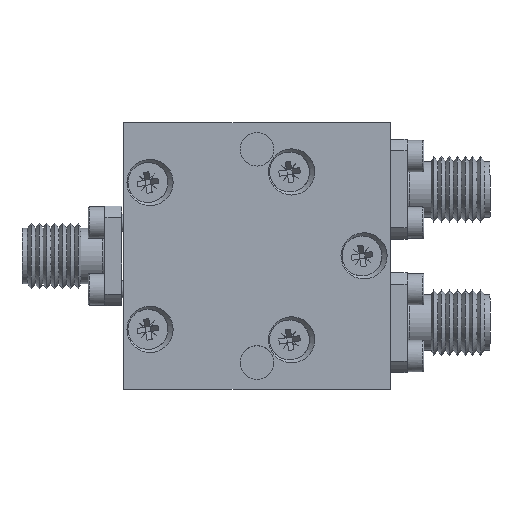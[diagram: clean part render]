
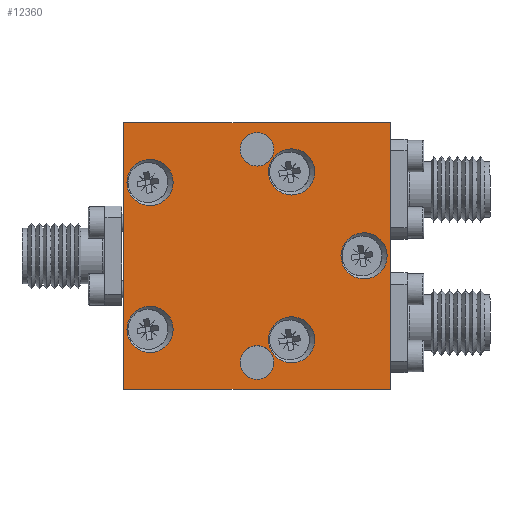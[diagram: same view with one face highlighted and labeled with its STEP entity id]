
A CAD part, top view. The second image highlights one B-rep face of the part: STEP entity #12360.
In plain terms, the highlighted planar face has unit normal (0, 0, 1).
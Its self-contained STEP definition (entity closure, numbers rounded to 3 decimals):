
#353=LINE('',#16928,#987);
#354=LINE('',#16931,#988);
#355=LINE('',#16933,#989);
#356=LINE('',#16935,#990);
#987=VECTOR('',#14247,1000.);
#988=VECTOR('',#14248,1000.);
#989=VECTOR('',#14249,1000.);
#990=VECTOR('',#14250,1000.);
#1596=PLANE('',#13066);
#2290=ORIENTED_EDGE('',*,*,#4305,.T.);
#2291=ORIENTED_EDGE('',*,*,#4306,.T.);
#2292=ORIENTED_EDGE('',*,*,#4307,.T.);
#2293=ORIENTED_EDGE('',*,*,#4308,.T.);
#2294=ORIENTED_EDGE('',*,*,#4294,.T.);
#2295=ORIENTED_EDGE('',*,*,#4285,.T.);
#2296=ORIENTED_EDGE('',*,*,#4276,.T.);
#2297=ORIENTED_EDGE('',*,*,#4267,.T.);
#2298=ORIENTED_EDGE('',*,*,#4258,.T.);
#2299=ORIENTED_EDGE('',*,*,#4304,.F.);
#2300=ORIENTED_EDGE('',*,*,#4303,.F.);
#4258=EDGE_CURVE('',#5309,#5309,#6081,.T.);
#4267=EDGE_CURVE('',#5316,#5316,#6083,.T.);
#4276=EDGE_CURVE('',#5323,#5323,#6085,.T.);
#4285=EDGE_CURVE('',#5330,#5330,#6087,.T.);
#4294=EDGE_CURVE('',#5337,#5337,#6089,.T.);
#4303=EDGE_CURVE('',#5344,#5344,#6091,.T.);
#4304=EDGE_CURVE('',#5345,#5345,#6092,.T.);
#4305=EDGE_CURVE('',#5346,#5347,#353,.T.);
#4306=EDGE_CURVE('',#5347,#5348,#354,.T.);
#4307=EDGE_CURVE('',#5348,#5349,#355,.T.);
#4308=EDGE_CURVE('',#5349,#5346,#356,.T.);
#5309=VERTEX_POINT('',#16693);
#5316=VERTEX_POINT('',#16739);
#5323=VERTEX_POINT('',#16785);
#5330=VERTEX_POINT('',#16831);
#5337=VERTEX_POINT('',#16877);
#5344=VERTEX_POINT('',#16923);
#5345=VERTEX_POINT('',#16926);
#5346=VERTEX_POINT('',#16929);
#5347=VERTEX_POINT('',#16930);
#5348=VERTEX_POINT('',#16932);
#5349=VERTEX_POINT('',#16934);
#6081=CIRCLE('',#13043,2.2);
#6083=CIRCLE('',#13047,2.2);
#6085=CIRCLE('',#13051,2.2);
#6087=CIRCLE('',#13055,2.2);
#6089=CIRCLE('',#13059,2.2);
#6091=CIRCLE('',#13063,1.6);
#6092=CIRCLE('',#13065,1.6);
#6494=EDGE_LOOP('',(#2290,#2291,#2292,#2293));
#6495=EDGE_LOOP('',(#2294));
#6496=EDGE_LOOP('',(#2295));
#6497=EDGE_LOOP('',(#2296));
#6498=EDGE_LOOP('',(#2297));
#6499=EDGE_LOOP('',(#2298));
#6500=EDGE_LOOP('',(#2299));
#6501=EDGE_LOOP('',(#2300));
#7367=FACE_BOUND('',#6494,.T.);
#7368=FACE_BOUND('',#6495,.T.);
#7369=FACE_BOUND('',#6496,.T.);
#7370=FACE_BOUND('',#6497,.T.);
#7371=FACE_BOUND('',#6498,.T.);
#7372=FACE_BOUND('',#6499,.T.);
#7373=FACE_BOUND('',#6500,.T.);
#7374=FACE_BOUND('',#6501,.T.);
#12360=ADVANCED_FACE('',(#7367,#7368,#7369,#7370,#7371,#7372,#7373,#7374),
#1596,.T.);
#13043=AXIS2_PLACEMENT_3D('',#16692,#14199,#14200);
#13047=AXIS2_PLACEMENT_3D('',#16738,#14207,#14208);
#13051=AXIS2_PLACEMENT_3D('',#16784,#14215,#14216);
#13055=AXIS2_PLACEMENT_3D('',#16830,#14223,#14224);
#13059=AXIS2_PLACEMENT_3D('',#16876,#14231,#14232);
#13063=AXIS2_PLACEMENT_3D('',#16922,#14239,#14240);
#13065=AXIS2_PLACEMENT_3D('',#16925,#14243,#14244);
#13066=AXIS2_PLACEMENT_3D('',#16927,#14245,#14246);
#14199=DIRECTION('',(0.,0.,-1.));
#14200=DIRECTION('',(0.,1.,0.));
#14207=DIRECTION('',(0.,0.,-1.));
#14208=DIRECTION('',(0.,1.,0.));
#14215=DIRECTION('',(0.,0.,-1.));
#14216=DIRECTION('',(0.,1.,0.));
#14223=DIRECTION('',(0.,0.,-1.));
#14224=DIRECTION('',(0.,1.,0.));
#14231=DIRECTION('',(0.,0.,-1.));
#14232=DIRECTION('',(0.,1.,0.));
#14239=DIRECTION('',(0.,0.,1.));
#14240=DIRECTION('',(1.,0.,0.));
#14243=DIRECTION('',(0.,0.,1.));
#14244=DIRECTION('',(1.,0.,0.));
#14245=DIRECTION('',(0.,0.,1.));
#14246=DIRECTION('',(1.,0.,0.));
#14247=DIRECTION('',(0.,1.,0.));
#14248=DIRECTION('',(-1.,0.,0.));
#14249=DIRECTION('',(0.,-1.,0.));
#14250=DIRECTION('',(1.,0.,0.));
#16692=CARTESIAN_POINT('',(-10.2,-7.,6.286));
#16693=CARTESIAN_POINT('',(-10.2,-4.8,6.286));
#16738=CARTESIAN_POINT('',(3.3,-8.,6.286));
#16739=CARTESIAN_POINT('',(3.3,-5.8,6.286));
#16784=CARTESIAN_POINT('',(10.2,0.,6.286));
#16785=CARTESIAN_POINT('',(10.2,2.2,6.286));
#16830=CARTESIAN_POINT('',(3.3,8.,6.286));
#16831=CARTESIAN_POINT('',(3.3,10.2,6.286));
#16876=CARTESIAN_POINT('',(-10.2,7.,6.286));
#16877=CARTESIAN_POINT('',(-10.2,9.2,6.286));
#16922=CARTESIAN_POINT('',(0.,-10.16,6.286));
#16923=CARTESIAN_POINT('',(1.6,-10.16,6.286));
#16925=CARTESIAN_POINT('',(0.,10.16,6.286));
#16926=CARTESIAN_POINT('',(1.6,10.16,6.286));
#16927=CARTESIAN_POINT('',(0.,0.,6.286));
#16928=CARTESIAN_POINT('',(12.7,-12.7,6.286));
#16929=CARTESIAN_POINT('',(12.7,-12.7,6.286));
#16930=CARTESIAN_POINT('',(12.7,12.7,6.286));
#16931=CARTESIAN_POINT('',(12.7,12.7,6.286));
#16932=CARTESIAN_POINT('',(-12.7,12.7,6.286));
#16933=CARTESIAN_POINT('',(-12.7,12.7,6.286));
#16934=CARTESIAN_POINT('',(-12.7,-12.7,6.286));
#16935=CARTESIAN_POINT('',(-12.7,-12.7,6.286));
